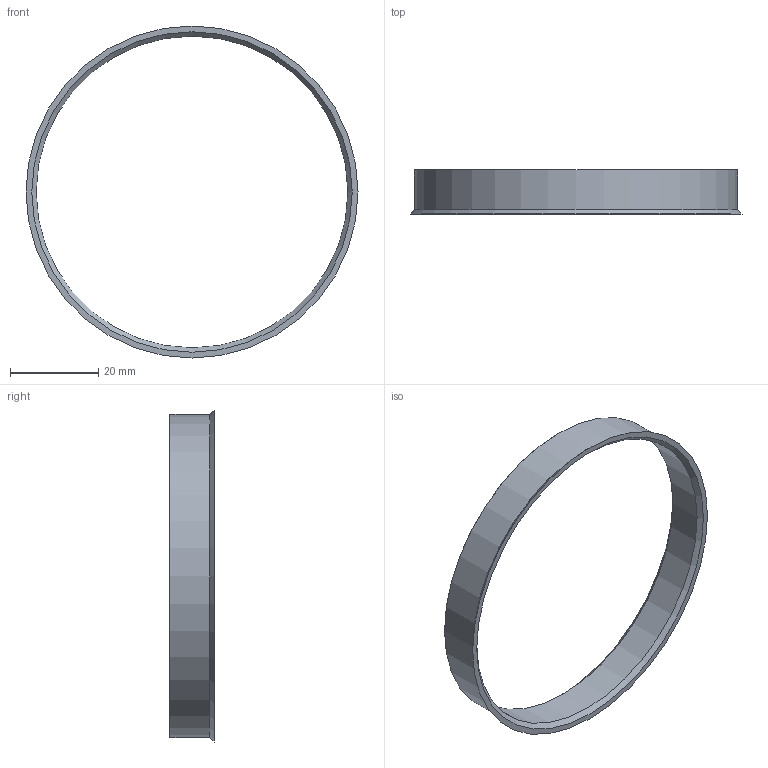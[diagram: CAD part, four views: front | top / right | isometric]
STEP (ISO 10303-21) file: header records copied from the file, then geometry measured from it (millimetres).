
FILE_DESCRIPTION(/* description */ (''),/* implementation_level */ '2;1');
FILE_NAME(/* name */ 'G:\CAD Library\Team Tasks\DIPP\11th Intake\Bradley Coles\Design Drafting\Random\Hub Rings\ipt\HubRing_73.1-70.5.stp',/* time_stamp */ '2025-07-22T13:44:02+08:00',/* author */ ('BCOLES'),/* organization */ (''),/* preprocessor_version */ 'ST-DEVELOPER v18.1',/* originating_system */ 'Autodesk Inventor 2022',/* authorisation */ '');
FILE_SCHEMA (('AUTOMOTIVE_DESIGN { 1 0 10303 214 3 1 1 }'));
Length unit declared in the file: millimetre
Products named in the file (1): HubRing_73.1-70.5
Bounding box: 75.1 x 10 x 75.1 mm (x, y, z)
Volume: 2761.4 mm3; surface area: 5141.6 mm2
Topology: 1 solids, 1 shells, 7 faces, 13 edges, 8 vertices
Faces by surface type: cone 3, cylinder 2, plane 2
Full cylindrical faces by diameter (mm): 70.5 x1, 73.1 x1
Entity records: 226 total; most frequent: DIRECTION 37, CARTESIAN_POINT 29, ORIENTED_EDGE 26, AXIS2_PLACEMENT_3D 16, EDGE_CURVE 13, EDGE_LOOP 9, CIRCLE 8, VERTEX_POINT 8
